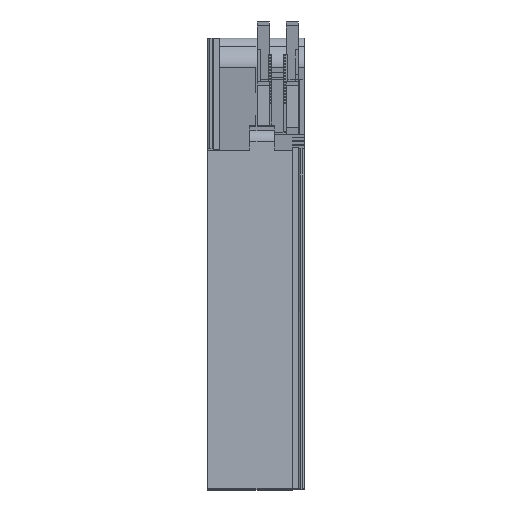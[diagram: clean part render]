
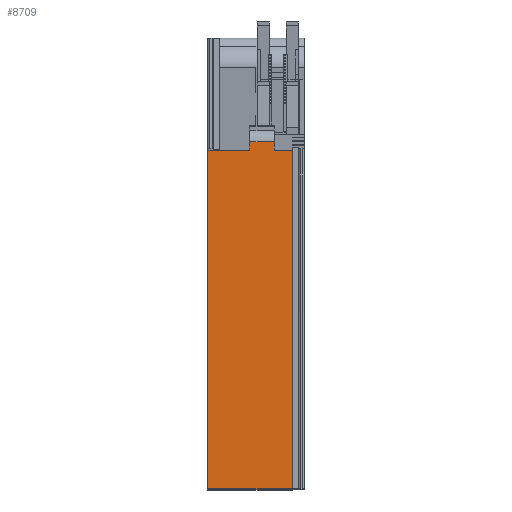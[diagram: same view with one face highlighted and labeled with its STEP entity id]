
A CAD part, top view. The second image highlights one B-rep face of the part: STEP entity #8709.
In plain terms, the highlighted planar face has unit normal (0, 0, 1).
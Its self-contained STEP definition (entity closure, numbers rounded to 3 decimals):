
#64 = LINE ( 'NONE', #5739, #4607 ) ;
#111 = VERTEX_POINT ( 'NONE', #13303 ) ;
#257 = EDGE_CURVE ( 'NONE', #8479, #8283, #3077, .T. ) ;
#326 = EDGE_CURVE ( 'NONE', #12776, #7767, #9148, .T. ) ;
#1407 = ORIENTED_EDGE ( 'NONE', *, *, #257, .T. ) ;
#1596 = FACE_OUTER_BOUND ( 'NONE', #12312, .T. ) ;
#1779 = DIRECTION ( 'NONE',  ( -1., 0., 0. ) ) ;
#1892 = CARTESIAN_POINT ( 'NONE',  ( 1869.845, 56.25, -1204.638 ) ) ;
#1973 = DIRECTION ( 'NONE',  ( 1., 0., 0. ) ) ;
#2000 = CARTESIAN_POINT ( 'NONE',  ( 1876.845, 56.25, -1204.638 ) ) ;
#2426 = VECTOR ( 'NONE', #12872, 1000. ) ;
#2444 = VECTOR ( 'NONE', #15311, 1000. ) ;
#2707 = CARTESIAN_POINT ( 'NONE',  ( 1883.845, 56.25, -1204.638 ) ) ;
#2817 = VECTOR ( 'NONE', #7192, 1000. ) ;
#2943 = ORIENTED_EDGE ( 'NONE', *, *, #326, .F. ) ;
#3077 = LINE ( 'NONE', #14470, #16233 ) ;
#3122 = VECTOR ( 'NONE', #1973, 1000. ) ;
#3321 = ORIENTED_EDGE ( 'NONE', *, *, #16947, .F. ) ;
#3382 = CARTESIAN_POINT ( 'NONE',  ( 1887.845, 56.25, -1204.638 ) ) ;
#3544 = VERTEX_POINT ( 'NONE', #5619 ) ;
#4288 = DIRECTION ( 'NONE',  ( 0., 0., -1. ) ) ;
#4607 = VECTOR ( 'NONE', #10051, 1000. ) ;
#5138 = CARTESIAN_POINT ( 'NONE',  ( 1887.845, 56.25, -1204.638 ) ) ;
#5251 = VECTOR ( 'NONE', #15886, 1000. ) ;
#5619 = CARTESIAN_POINT ( 'NONE',  ( 1883.845, 56.25, -1204.638 ) ) ;
#5739 = CARTESIAN_POINT ( 'NONE',  ( 1883.845, 57.618, -1204.638 ) ) ;
#6245 = EDGE_CURVE ( 'NONE', #111, #3544, #7096, .T. ) ;
#6285 = LINE ( 'NONE', #9189, #12983 ) ;
#6433 = CARTESIAN_POINT ( 'NONE',  ( 1869.845, 56.25, -1204.638 ) ) ;
#6560 = VERTEX_POINT ( 'NONE', #16071 ) ;
#6585 = CARTESIAN_POINT ( 'NONE',  ( 1876.845, 0., -1204.638 ) ) ;
#6597 = EDGE_CURVE ( 'NONE', #6560, #12776, #9531, .T. ) ;
#7096 = LINE ( 'NONE', #2707, #2426 ) ;
#7192 = DIRECTION ( 'NONE',  ( 1., 0., 0. ) ) ;
#7767 = VERTEX_POINT ( 'NONE', #10259 ) ;
#8283 = VERTEX_POINT ( 'NONE', #6585 ) ;
#8479 = VERTEX_POINT ( 'NONE', #2000 ) ;
#8709 = ADVANCED_FACE ( 'NONE', ( #1596 ), #12971, .F. ) ;
#8865 = CARTESIAN_POINT ( 'NONE',  ( 1876.845, 75., -1204.638 ) ) ;
#9148 = LINE ( 'NONE', #6433, #3122 ) ;
#9189 = CARTESIAN_POINT ( 'NONE',  ( 1890.845, 75., -1204.638 ) ) ;
#9531 = LINE ( 'NONE', #5138, #2444 ) ;
#10051 = DIRECTION ( 'NONE',  ( 1., 0., 0. ) ) ;
#10230 = AXIS2_PLACEMENT_3D ( 'NONE', #8865, #4288, #1779 ) ;
#10259 = CARTESIAN_POINT ( 'NONE',  ( 1890.845, 56.25, -1204.638 ) ) ;
#10405 = CARTESIAN_POINT ( 'NONE',  ( 1890.845, 0., -1204.638 ) ) ;
#10567 = EDGE_CURVE ( 'NONE', #111, #6560, #64, .T. ) ;
#10782 = VERTEX_POINT ( 'NONE', #10405 ) ;
#11754 = DIRECTION ( 'NONE',  ( 0., -1., 0. ) ) ;
#12312 = EDGE_LOOP ( 'NONE', ( #3321, #2943, #14825, #12867, #13364, #15520, #1407, #13352 ) ) ;
#12776 = VERTEX_POINT ( 'NONE', #3382 ) ;
#12816 = EDGE_CURVE ( 'NONE', #8479, #3544, #14672, .T. ) ;
#12867 = ORIENTED_EDGE ( 'NONE', *, *, #10567, .F. ) ;
#12872 = DIRECTION ( 'NONE',  ( 0., -1., 0. ) ) ;
#12971 = PLANE ( 'NONE',  #10230 ) ;
#12983 = VECTOR ( 'NONE', #13300, 1000. ) ;
#13154 = EDGE_CURVE ( 'NONE', #8283, #10782, #18222, .T. ) ;
#13300 = DIRECTION ( 'NONE',  ( 0., -1., 0. ) ) ;
#13303 = CARTESIAN_POINT ( 'NONE',  ( 1883.845, 57.618, -1204.638 ) ) ;
#13352 = ORIENTED_EDGE ( 'NONE', *, *, #13154, .T. ) ;
#13364 = ORIENTED_EDGE ( 'NONE', *, *, #6245, .T. ) ;
#14013 = CARTESIAN_POINT ( 'NONE',  ( 1876.845, 0., -1204.638 ) ) ;
#14470 = CARTESIAN_POINT ( 'NONE',  ( 1876.845, 75., -1204.638 ) ) ;
#14672 = LINE ( 'NONE', #1892, #5251 ) ;
#14825 = ORIENTED_EDGE ( 'NONE', *, *, #6597, .F. ) ;
#15311 = DIRECTION ( 'NONE',  ( 0., -1., 0. ) ) ;
#15520 = ORIENTED_EDGE ( 'NONE', *, *, #12816, .F. ) ;
#15886 = DIRECTION ( 'NONE',  ( 1., 0., 0. ) ) ;
#16071 = CARTESIAN_POINT ( 'NONE',  ( 1887.845, 57.618, -1204.638 ) ) ;
#16233 = VECTOR ( 'NONE', #11754, 1000. ) ;
#16947 = EDGE_CURVE ( 'NONE', #7767, #10782, #6285, .T. ) ;
#18222 = LINE ( 'NONE', #14013, #2817 ) ;
